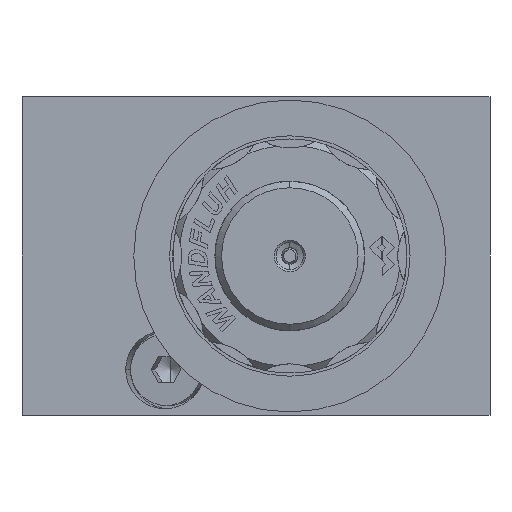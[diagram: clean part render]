
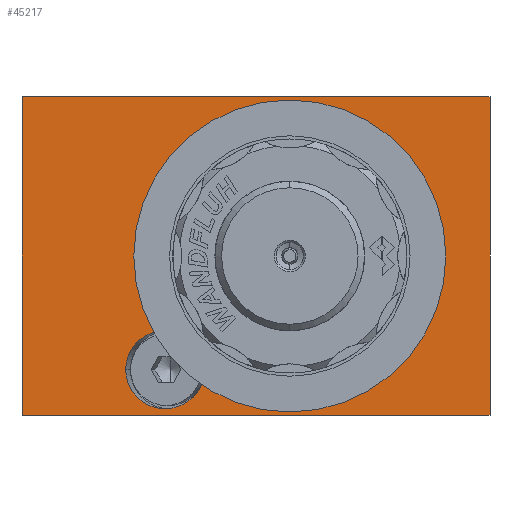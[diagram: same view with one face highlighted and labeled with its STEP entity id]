
A CAD part, left-side view. The second image highlights one B-rep face of the part: STEP entity #45217.
In plain terms, the highlighted planar face has unit normal (-1, 0, 0).
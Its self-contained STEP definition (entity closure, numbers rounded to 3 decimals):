
#224 = CARTESIAN_POINT ( 'NONE',  ( -49., -5.2, 14.5 ) ) ;
#644 = CARTESIAN_POINT ( 'NONE',  ( -49., 20.045, -17.5 ) ) ;
#734 = VERTEX_POINT ( 'NONE', #52252 ) ;
#1032 = CARTESIAN_POINT ( 'NONE',  ( -49., -5.2, -14.5 ) ) ;
#1773 = EDGE_LOOP ( 'NONE', ( #5107, #52078, #24269, #39763 ) ) ;
#2800 = ORIENTED_EDGE ( 'NONE', *, *, #7584, .T. ) ;
#3081 = EDGE_CURVE ( 'NONE', #36862, #12191, #50177, .T. ) ;
#3090 = DIRECTION ( 'NONE',  ( 0., 0., 1. ) ) ;
#3119 = VERTEX_POINT ( 'NONE', #32227 ) ;
#3140 = ORIENTED_EDGE ( 'NONE', *, *, #18062, .F. ) ;
#4176 = CARTESIAN_POINT ( 'NONE',  ( -49., 20.045, -17.5 ) ) ;
#4960 = CARTESIAN_POINT ( 'NONE',  ( -49., 36., 24.5 ) ) ;
#5034 = DIRECTION ( 'NONE',  ( 0., -1., 0. ) ) ;
#5107 = ORIENTED_EDGE ( 'NONE', *, *, #34001, .T. ) ;
#6532 = VERTEX_POINT ( 'NONE', #9630 ) ;
#7584 = EDGE_CURVE ( 'NONE', #12191, #36862, #41453, .T. ) ;
#7615 = CARTESIAN_POINT ( 'NONE',  ( -49., 7.955, -17.5 ) ) ;
#9378 = DIRECTION ( 'NONE',  ( 0., 0., -1. ) ) ;
#9447 = LINE ( 'NONE', #13579, #11541 ) ;
#9630 = CARTESIAN_POINT ( 'NONE',  ( -49., 36., 24.5 ) ) ;
#10473 = VECTOR ( 'NONE', #3090, 1000. ) ;
#11243 = CARTESIAN_POINT ( 'NONE',  ( -49., 36., -24.5 ) ) ;
#11541 = VECTOR ( 'NONE', #5034, 1000. ) ;
#12106 = CARTESIAN_POINT ( 'NONE',  ( -49., 7.955, -29.5 ) ) ;
#12191 = VERTEX_POINT ( 'NONE', #224 ) ;
#12447 = CARTESIAN_POINT ( 'NONE',  ( -49., 20.045, -5.5 ) ) ;
#13579 = CARTESIAN_POINT ( 'NONE',  ( -49., 36., -24.5 ) ) ;
#15128 = VERTEX_POINT ( 'NONE', #11243 ) ;
#15508 = DIRECTION ( 'NONE',  ( 0., -1., 0. ) ) ;
#15741 = EDGE_CURVE ( 'NONE', #6532, #734, #26817, .T. ) ;
#16857 = EDGE_LOOP ( 'NONE', ( #39304, #2800 ) ) ;
#17640 = FACE_OUTER_BOUND ( 'NONE', #1773, .T. ) ;
#17747 = AXIS2_PLACEMENT_3D ( 'NONE', #33724, #29597, #41976 ) ;
#18062 = EDGE_CURVE ( 'NONE', #47314, #49049, #25911, .T. ) ;
#20614 =( BOUNDED_CURVE ( )  B_SPLINE_CURVE ( 3, ( #41525, #32734, #12106, #53634 ),
 .UNSPECIFIED., .F., .F. ) 
 B_SPLINE_CURVE_WITH_KNOTS ( ( 4, 4 ),
 ( 0., 3.142 ),
 .UNSPECIFIED. ) 
 CURVE ( )  GEOMETRIC_REPRESENTATION_ITEM ( )  RATIONAL_B_SPLINE_CURVE ( ( 1., 0.333, 0.333, 1. ) ) 
 REPRESENTATION_ITEM ( '' )  );
#21869 = AXIS2_PLACEMENT_3D ( 'NONE', #4960, #46500, #9378 ) ;
#22899 = DIRECTION ( 'NONE',  ( 0., 0., -1. ) ) ;
#24269 = ORIENTED_EDGE ( 'NONE', *, *, #40799, .F. ) ;
#24974 = EDGE_CURVE ( 'NONE', #15128, #3119, #9447, .T. ) ;
#25795 = ORIENTED_EDGE ( 'NONE', *, *, #33372, .F. ) ;
#25911 =( BOUNDED_CURVE ( )  B_SPLINE_CURVE ( 3, ( #46262, #50130, #12447, #4176 ),
 .UNSPECIFIED., .F., .F. ) 
 B_SPLINE_CURVE_WITH_KNOTS ( ( 4, 4 ),
 ( 3.142, 6.283 ),
 .UNSPECIFIED. ) 
 CURVE ( )  GEOMETRIC_REPRESENTATION_ITEM ( )  RATIONAL_B_SPLINE_CURVE ( ( 1., 0.333, 0.333, 1. ) ) 
 REPRESENTATION_ITEM ( '' )  );
#26817 = LINE ( 'NONE', #32014, #53921 ) ;
#27031 = LINE ( 'NONE', #44586, #36481 ) ;
#29597 = DIRECTION ( 'NONE',  ( 1., 0., 0. ) ) ;
#32014 = CARTESIAN_POINT ( 'NONE',  ( -49., 36., 24.5 ) ) ;
#32227 = CARTESIAN_POINT ( 'NONE',  ( -49., -36., -24.5 ) ) ;
#32734 = CARTESIAN_POINT ( 'NONE',  ( -49., 20.045, -29.5 ) ) ;
#33372 = EDGE_CURVE ( 'NONE', #49049, #47314, #20614, .T. ) ;
#33724 = CARTESIAN_POINT ( 'NONE',  ( -49., -5.2, 0. ) ) ;
#34001 = EDGE_CURVE ( 'NONE', #3119, #734, #36658, .T. ) ;
#34689 = FACE_BOUND ( 'NONE', #41251, .T. ) ;
#35538 = DIRECTION ( 'NONE',  ( 0., 0., 1. ) ) ;
#36481 = VECTOR ( 'NONE', #35538, 1000. ) ;
#36658 = LINE ( 'NONE', #44894, #10473 ) ;
#36862 = VERTEX_POINT ( 'NONE', #1032 ) ;
#38519 = FACE_BOUND ( 'NONE', #16857, .T. ) ;
#38567 = DIRECTION ( 'NONE',  ( 1., 0., 0. ) ) ;
#39304 = ORIENTED_EDGE ( 'NONE', *, *, #3081, .T. ) ;
#39763 = ORIENTED_EDGE ( 'NONE', *, *, #24974, .T. ) ;
#40799 = EDGE_CURVE ( 'NONE', #15128, #6532, #27031, .T. ) ;
#41251 = EDGE_LOOP ( 'NONE', ( #3140, #25795 ) ) ;
#41453 = CIRCLE ( 'NONE', #17747, 14.5 ) ;
#41525 = CARTESIAN_POINT ( 'NONE',  ( -49., 20.045, -17.5 ) ) ;
#41976 = DIRECTION ( 'NONE',  ( 0., 0., -1. ) ) ;
#43798 = CARTESIAN_POINT ( 'NONE',  ( -49., -5.2, 0. ) ) ;
#44586 = CARTESIAN_POINT ( 'NONE',  ( -49., 36., 24.5 ) ) ;
#44894 = CARTESIAN_POINT ( 'NONE',  ( -49., -36., 24.5 ) ) ;
#45217 = ADVANCED_FACE ( 'NONE', ( #17640, #38519, #34689 ), #51200, .F. ) ;
#46262 = CARTESIAN_POINT ( 'NONE',  ( -49., 7.955, -17.5 ) ) ;
#46500 = DIRECTION ( 'NONE',  ( 1., 0., 0. ) ) ;
#47314 = VERTEX_POINT ( 'NONE', #7615 ) ;
#47540 = AXIS2_PLACEMENT_3D ( 'NONE', #43798, #38567, #22899 ) ;
#49049 = VERTEX_POINT ( 'NONE', #644 ) ;
#50130 = CARTESIAN_POINT ( 'NONE',  ( -49., 7.955, -5.5 ) ) ;
#50177 = CIRCLE ( 'NONE', #47540, 14.5 ) ;
#51200 = PLANE ( 'NONE',  #21869 ) ;
#52078 = ORIENTED_EDGE ( 'NONE', *, *, #15741, .F. ) ;
#52252 = CARTESIAN_POINT ( 'NONE',  ( -49., -36., 24.5 ) ) ;
#53634 = CARTESIAN_POINT ( 'NONE',  ( -49., 7.955, -17.5 ) ) ;
#53921 = VECTOR ( 'NONE', #15508, 1000. ) ;
